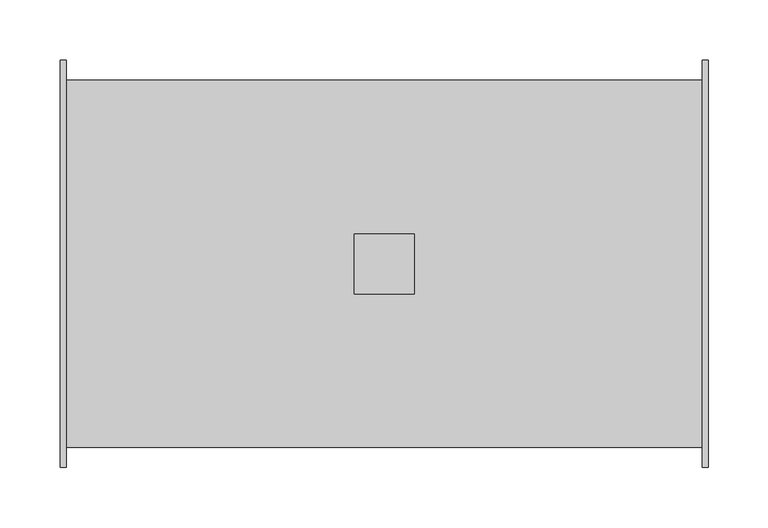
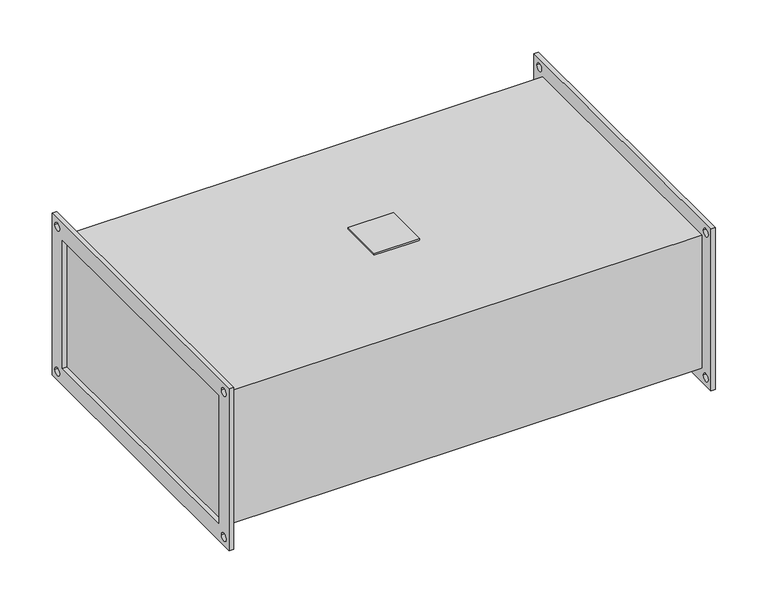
"""IFC4 building model written with IfcOpenShell, lengths in millimetres: damper geometry, KORF_Фильтр_Карманный_FKR : FKR 30-15  EU3."""

from ifc_helpers import new_model, si_unit, point, frame, frame_2d, origin, place, context, project, spatial, polyline, circle_curve, trimmed, segment, composite_curve, outline, extrude, source, transform, mapped, element, save


def damper_4ee24c56(model_context):
    return source(origin(), model_context, "Body", "SweptSolid", [
        extrude(outline(polyline([(245.0, -25.0), (245.0, 25.0), (295.0, 25.0), (295.0, -25.0), (245.0, -25.0)])), frame((0.0, 0.0, 78.0), z_axis=(0.0, 0.0, 1.0), x_axis=(1.0, 0.0, 0.0)), (0.0, 0.0, 1.0), 2.0),
        extrude(outline(polyline([(-170.0, 95.0), (170.0, 95.0), (170.0, -95.0), (-170.0, -95.0), (-170.0, 95.0)]), holes=[polyline([(-150.0, 75.0), (-150.0, -75.0), (150.0, -75.0), (150.0, 75.0), (-150.0, 75.0)]), composite_curve([segment(trimmed(circle_curve(frame_2d((160.0, 85.0)), 4.5), [point((155.5, 85.0))], [point((164.5, 85.0))], True, "CARTESIAN"), True, "CONTINUOUS"), segment(trimmed(circle_curve(frame_2d((160.0, 85.0)), 4.5), [point((164.5, 85.0))], [point((155.5, 85.0))], True, "CARTESIAN"), True, "CONTINUOUS")], self_intersect=False), composite_curve([segment(trimmed(circle_curve(frame_2d((-160.0, 85.0)), 4.5), [point((-164.5, 85.0))], [point((-155.5, 85.0))], True, "CARTESIAN"), True, "CONTINUOUS"), segment(trimmed(circle_curve(frame_2d((-160.0, 85.0)), 4.5), [point((-155.5, 85.0))], [point((-164.5, 85.0))], True, "CARTESIAN"), True, "CONTINUOUS")], self_intersect=False), composite_curve([segment(trimmed(circle_curve(frame_2d((-160.0, -85.0)), 4.5), [point((-164.5, -85.0))], [point((-155.5, -85.0))], True, "CARTESIAN"), True, "CONTINUOUS"), segment(trimmed(circle_curve(frame_2d((-160.0, -85.0)), 4.5), [point((-155.5, -85.0))], [point((-164.5, -85.0))], True, "CARTESIAN"), True, "CONTINUOUS")], self_intersect=False), composite_curve([segment(trimmed(circle_curve(frame_2d((160.0, -85.0)), 4.5), [point((155.5, -85.0))], [point((164.5, -85.0))], True, "CARTESIAN"), True, "CONTINUOUS"), segment(trimmed(circle_curve(frame_2d((160.0, -85.0)), 4.5), [point((164.5, -85.0))], [point((155.5, -85.0))], True, "CARTESIAN"), True, "CONTINUOUS")], self_intersect=False)]), frame((535.0, 0.0, 0.0), z_axis=(1.0, 0.0, 0.0), x_axis=(0.0, 1.0, 0.0)), (0.0, 0.0, 1.0), 5.0),
        extrude(outline(polyline([(-170.0, 95.0), (170.0, 95.0), (170.0, -95.0), (-170.0, -95.0), (-170.0, 95.0)]), holes=[polyline([(-150.0, 75.0), (-150.0, -75.0), (150.0, -75.0), (150.0, 75.0), (-150.0, 75.0)]), composite_curve([segment(trimmed(circle_curve(frame_2d((160.0, 85.0)), 4.5), [point((155.5, 85.0))], [point((164.5, 85.0))], True, "CARTESIAN"), True, "CONTINUOUS"), segment(trimmed(circle_curve(frame_2d((160.0, 85.0)), 4.5), [point((164.5, 85.0))], [point((155.5, 85.0))], True, "CARTESIAN"), True, "CONTINUOUS")], self_intersect=False), composite_curve([segment(trimmed(circle_curve(frame_2d((-160.0, 85.0)), 4.5), [point((-164.5, 85.0))], [point((-155.5, 85.0))], True, "CARTESIAN"), True, "CONTINUOUS"), segment(trimmed(circle_curve(frame_2d((-160.0, 85.0)), 4.5), [point((-155.5, 85.0))], [point((-164.5, 85.0))], True, "CARTESIAN"), True, "CONTINUOUS")], self_intersect=False), composite_curve([segment(trimmed(circle_curve(frame_2d((-160.0, -85.0)), 4.5), [point((-164.5, -85.0))], [point((-155.5, -85.0))], True, "CARTESIAN"), True, "CONTINUOUS"), segment(trimmed(circle_curve(frame_2d((-160.0, -85.0)), 4.5), [point((-155.5, -85.0))], [point((-164.5, -85.0))], True, "CARTESIAN"), True, "CONTINUOUS")], self_intersect=False), composite_curve([segment(trimmed(circle_curve(frame_2d((160.0, -85.0)), 4.5), [point((155.5, -85.0))], [point((164.5, -85.0))], True, "CARTESIAN"), True, "CONTINUOUS"), segment(trimmed(circle_curve(frame_2d((160.0, -85.0)), 4.5), [point((164.5, -85.0))], [point((155.5, -85.0))], True, "CARTESIAN"), True, "CONTINUOUS")], self_intersect=False)]), frame((0.0, 0.0, 0.0), z_axis=(1.0, 0.0, 0.0), x_axis=(0.0, 1.0, 0.0)), (0.0, 0.0, 1.0), 5.0),
        extrude(outline(polyline([(535.0, 153.0), (535.0, -153.0), (5.0, -153.0), (5.0, 153.0), (535.0, 153.0)])), frame((0.0, 0.0, -78.0), z_axis=(0.0, 0.0, 1.0), x_axis=(1.0, 0.0, 0.0)), (0.0, 0.0, 1.0), 156.0),
    ])


if __name__ == "__main__":
    model = new_model("IFC4")
    model_context = context("Model", 3, world=origin())
    ifc_project = project(units=[si_unit("LENGTHUNIT", "METRE", prefix="MILLI")], contexts=[model_context])
    site = spatial("IfcSite", under=ifc_project)
    building = spatial("IfcBuilding", under=site)
    placement = place(None, origin())
    damper_shape = damper_4ee24c56(model_context)
    element("IfcDamper", 1, ObjectType="KORF_Фильтр_Карманный_FKR : FKR 30-15  EU3", at=placement, inside=building, context=model_context, shape_type="MappedRepresentation", body=[
        mapped(damper_shape, transform((0.0, 0.0, 0.0), x_axis=(1.0, 0.0, 0.0), y_axis=(0.0, 1.0, 0.0), z_axis=(0.0, 0.0, 1.0))),
    ])
    save(model, "model.ifc")
